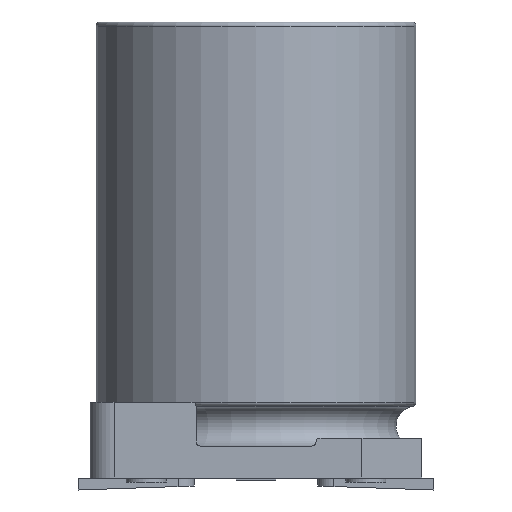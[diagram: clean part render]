
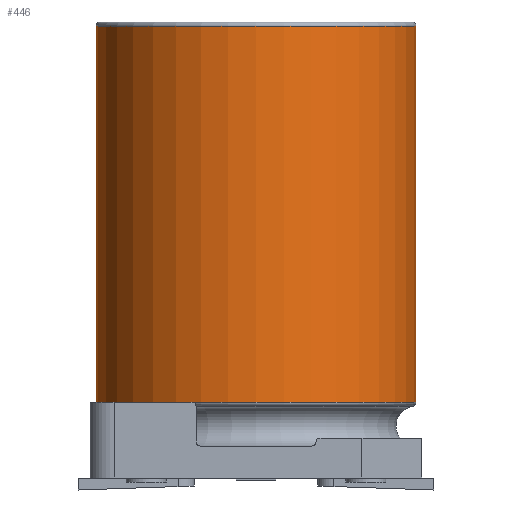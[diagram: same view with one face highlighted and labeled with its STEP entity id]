
A CAD part, front view. The second image highlights one B-rep face of the part: STEP entity #446.
In plain terms, the highlighted cylindrical face has radius 4 mm (diameter 8 mm), a full revolution.
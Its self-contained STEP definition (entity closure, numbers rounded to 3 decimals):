
#219=CYLINDRICAL_SURFACE('',#2487,4.);
#446=ADVANCED_FACE('',(#598,#599),#219,.T.);
#598=FACE_BOUND('',#672,.T.);
#599=FACE_BOUND('',#673,.T.);
#672=EDGE_LOOP('',(#1125));
#673=EDGE_LOOP('',(#1126));
#790=CIRCLE('',#2485,4.);
#791=CIRCLE('',#2486,4.);
#1125=ORIENTED_EDGE('',*,*,#1840,.T.);
#1126=ORIENTED_EDGE('',*,*,#1841,.T.);
#1591=VERTEX_POINT('',#3752);
#1592=VERTEX_POINT('',#3754);
#1840=EDGE_CURVE('',#1591,#1591,#790,.T.);
#1841=EDGE_CURVE('',#1592,#1592,#791,.T.);
#2485=AXIS2_PLACEMENT_3D('',#3751,#2909,#2910);
#2486=AXIS2_PLACEMENT_3D('',#3753,#2911,#2912);
#2487=AXIS2_PLACEMENT_3D('',#3755,#2913,#2914);
#2909=DIRECTION('',(0.,0.,1.));
#2910=DIRECTION('',(1.,0.,0.));
#2911=DIRECTION('',(0.,0.,-1.));
#2912=DIRECTION('',(-1.,0.,0.));
#2913=DIRECTION('',(0.,0.,-1.));
#2914=DIRECTION('',(-1.,0.,0.));
#3751=CARTESIAN_POINT('',(0.,0.,1.892));
#3752=CARTESIAN_POINT('',(4.,0.,1.892));
#3753=CARTESIAN_POINT('',(0.,0.,11.3));
#3754=CARTESIAN_POINT('',(-4.,0.,11.3));
#3755=CARTESIAN_POINT('',(0.,0.,0.));
